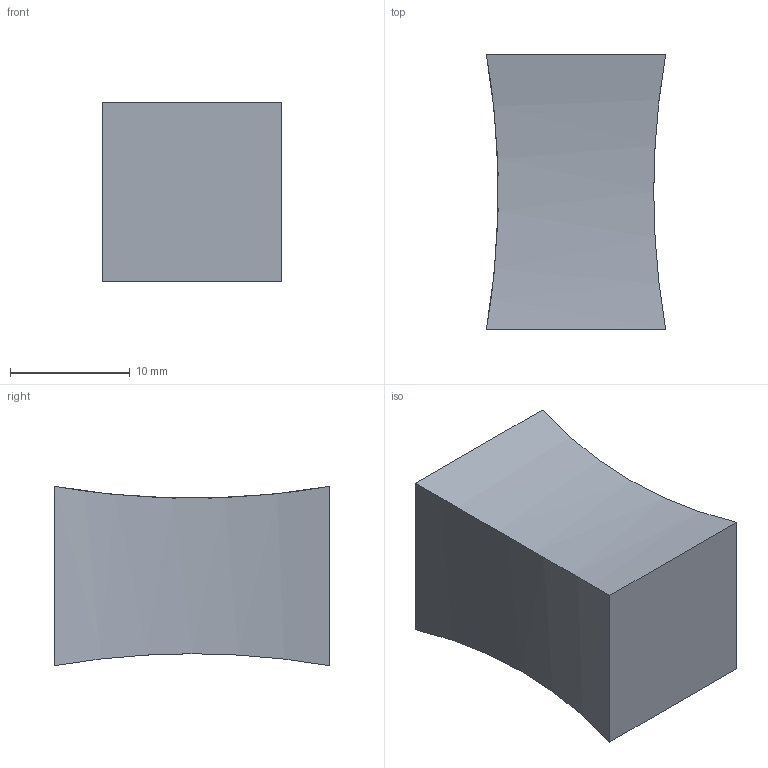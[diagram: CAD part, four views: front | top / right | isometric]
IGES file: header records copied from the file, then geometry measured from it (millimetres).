
Start section: Data from Parasolid IGES Translator 15.0.47, Copyright(c) 2006 Siemens P LM Software. All Rights Reserved.
Global section: file name:  9071080.igs; native system:  By UGS Corp.; preprocessor: XPlus GENERIC/IGES 3.0; author: Noname; organization: Noname; date: 20140122.174419; units: millimetre
Bounding box: 15 x 23 x 15 mm (x, y, z)
Surface area: 1776.6 mm2 (no closed solid volume)
Topology: 0 solids, 0 shells, 10 faces, 40 edges, 40 vertices
Faces by surface type: revolution 7, extrusion 3
